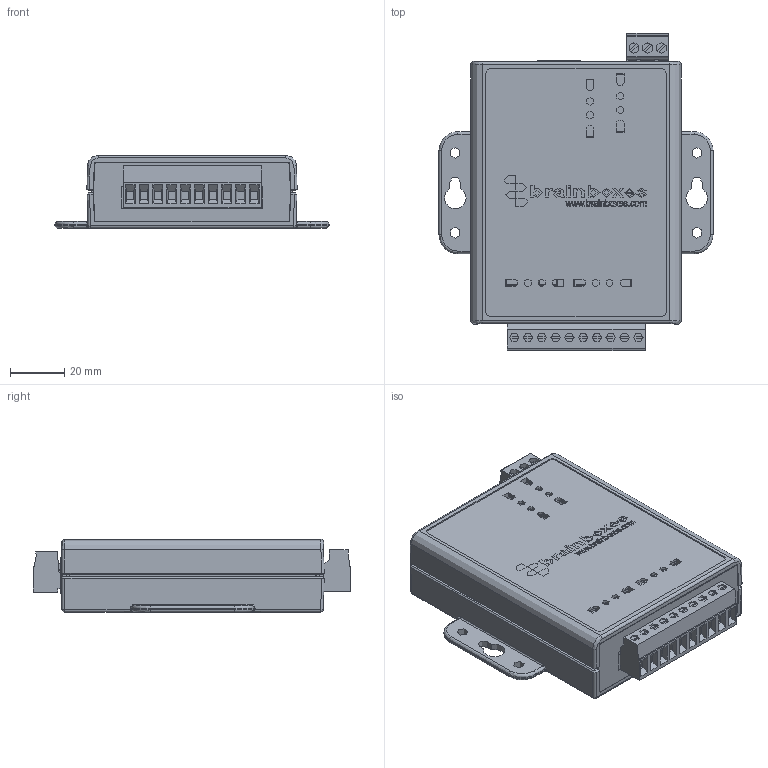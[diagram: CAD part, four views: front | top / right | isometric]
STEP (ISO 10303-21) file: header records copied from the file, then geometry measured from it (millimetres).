
FILE_DESCRIPTION(('STEP AP214'),'1');
FILE_NAME('ED-038 Cased 3D Step.step','2020-12-17T14:03:02',(' '),(' '),'Spatial InterOp 3D','XD3DPlugin XRACreate',' ');
FILE_SCHEMA(('automotive_design'));
Length unit declared in the file: millimetre
Products named in the file (57): Submodel-Input_S\20REL3VA.xtd; 20REL3VA; Submodel-20REL3VA_part_simplified_HF46F-H2; DesignRootModel; Submodel-Input_S\SMD_ELEC_D.xtd; SMD_ELEC_D; Submodel-7547UF50V_part_simplified_SMD_ELEC_D; Submodel-Input_S\50HEA3X1.xtd; 50HEA3X1; Submodel-50HEA3X1_part_simplified_H100MIL1X3; Submodel-Input_S\82HEA5MMTBX3.xtd; 82HEA5MMTBX3; Submodel-82HEA5MMTBX3_part_simplified_TB_5MM_3; Submodel-Input_S\82HEA5MMTBX10.xtd; 82HEA5MMTBX10; Submodel-82HEA5MMTBX10_part_simplified_TB_5MM_10; Submodel-Input_S\00MAGJACKILED.xtd; 00MAGJACKILED; Submodel-00MAGJACKILED_part_simplified_MAGJACK_LEDS; Submodel-Input_S\6610UH5A5.xtd; 6610UH5A5; Submodel-6610UH5A5_part_simplified_SRR1260; Submodel-Input_S\40SMTBUTTON_0.xtd; 40SMTBUTTON_0; Submodel-40SMTBUTTON_part_simplified_SMTBUTTON; Submodel-Input_S\SMC.xtd; SMC; Submodel-55TZ1K5SMC36V_part_simplified_SMC; Submodel-Input_S\50HEA4X2.xtd; 50HEA4X2; Submodel-50HEA4X2_part_simplified_H100MIL2X4; uid__9223372036854779960; Submodel-AssyDefn_32; BrainboxesLogo.step; Submodel-AssyDefn_31; CamdenEndPanel.sat; Submodel-AssyDefn_30; 82PLUG5MMTBX3.sat; Submodel-AssyDefn_29; 82PLUG5MMTBX10.sat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
Assembly tree (66 placements, depth 5):
  ED-038 Cased 3D Step
    DesignRootModel
      Submodel-20REL3VA_part_simplified_HF46F-H2  x3
        Submodel-Input_S\20REL3VA.xtd
          20REL3VA
      Submodel-7547UF50V_part_simplified_SMD_ELEC_D
        Submodel-Input_S\SMD_ELEC_D.xtd
          SMD_ELEC_D
      Submodel-50HEA3X1_part_simplified_H100MIL1X3  x4
        Submodel-Input_S\50HEA3X1.xtd
          50HEA3X1
      Submodel-82HEA5MMTBX3_part_simplified_TB_5MM_3
        Submodel-Input_S\82HEA5MMTBX3.xtd
          82HEA5MMTBX3
      Submodel-82HEA5MMTBX10_part_simplified_TB_5MM_10
        Submodel-Input_S\82HEA5MMTBX10.xtd
          82HEA5MMTBX10
      Submodel-00MAGJACKILED_part_simplified_MAGJACK_LEDS
        Submodel-Input_S\00MAGJACKILED.xtd
          00MAGJACKILED
      Submodel-6610UH5A5_part_simplified_SRR1260
        Submodel-Input_S\6610UH5A5.xtd
          6610UH5A5
      Submodel-40SMTBUTTON_part_simplified_SMTBUTTON
        Submodel-Input_S\40SMTBUTTON_0.xtd
          40SMTBUTTON_0
      Submodel-55TZ1K5SMC36V_part_simplified_SMC  x3
        Submodel-Input_S\SMC.xtd
          SMC
      Submodel-50HEA4X2_part_simplified_H100MIL2X4
        Submodel-Input_S\50HEA4X2.xtd
          50HEA4X2
      uid__9223372036854779960
      Submodel-AssyDefn_32  x2
        BrainboxesLogo.step
      Submodel-AssyDefn_31  x2
        CamdenEndPanel.sat
      Submodel-AssyDefn_30
        82PLUG5MMTBX3.sat
      Submodel-AssyDefn_29
        82PLUG5MMTBX10.sat
      Submodel-AssyDefn_28
        00ESUSCASELID.sat
      Submodel-AssyDefn_27
        00ESUSCASEBASE.sat
      Submodel-DATUM_2441444698_part_DATUM
        Submodel-noModelForPart_DATUM_2441444698
          placementOutline
      Submodel-TOOLINGHOLE_399477976_part_TOOLINGHOLE
        Submodel-noModelForPart_TOOLINGHOLE_399477976
          placementOutline
      Submodel-MOUNTINGHOLE_2132796670_part_MOUNTINGHOLE  x2
        Submodel-noModelForPart_MOUNTINGHOLE_2132796670
          placementOutline
      Submodel-REJECTMARK_3219705766_part_REJECTMARK
        Submodel-noModelForPart_REJECTMARK_3219705766
          placementOutline
Bounding box: 101 x 117.1 x 27.1 mm (x, y, z)
Volume: 78832.2 mm3; surface area: 98211.7 mm2
Topology: 171 solids, 171 shells, 8813 faces, 22757 edges, 14446 vertices
Faces by surface type: plane 6458, cylinder 1390, bspline 644, torus 173, cone 95, sphere 53
Full cylindrical faces by diameter (mm): 0.6 x2, 3.81 x1
Entity records: 261130 total; most frequent: CARTESIAN_POINT 43505, ORIENTED_EDGE 34236, DIRECTION 32482, EDGE_CURVE 17118, LINE 13632, VECTOR 13632, VERTEX_POINT 10836, AXIS2_PLACEMENT_3D 9425
